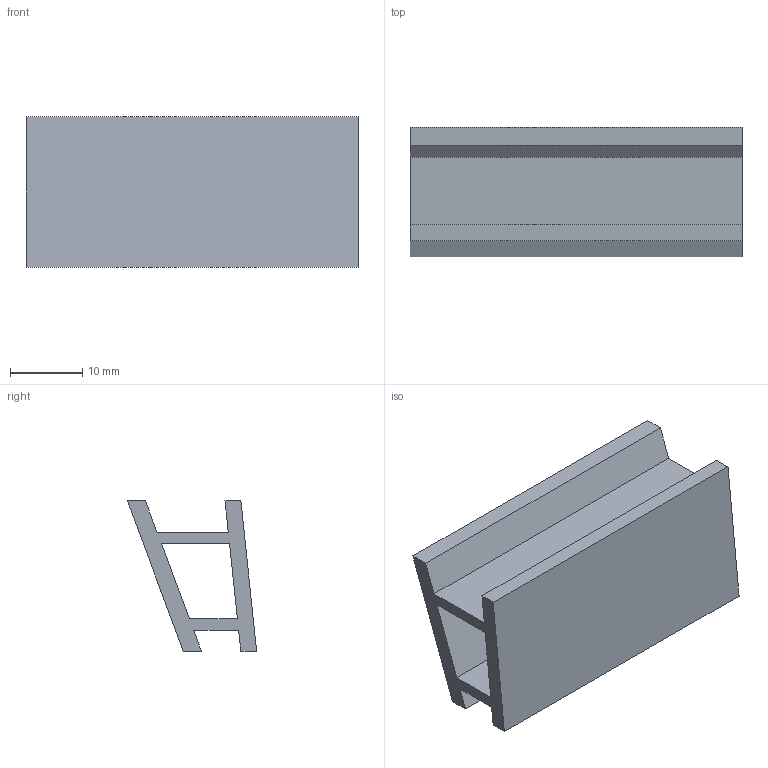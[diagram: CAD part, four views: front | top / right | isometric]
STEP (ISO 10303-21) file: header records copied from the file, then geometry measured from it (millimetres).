
FILE_DESCRIPTION(('Open CASCADE Model'),'2;1');
FILE_NAME('Open CASCADE Shape Model','2026-10-16T03:24:50',('Author'),( 'Open CASCADE'),'Open CASCADE STEP processor 7.9','Open CASCADE 7.9' ,'Unknown');
FILE_SCHEMA(('AUTOMOTIVE_DESIGN { 1 0 10303 214 1 1 1 1 }'));
Length unit declared in the file: millimetre
Products named in the file (1): Open CASCADE STEP translator 7.9 26
Bounding box: 46 x 17.92 x 20.83 mm (x, y, z)
Volume: 5687.8 mm3; surface area: 5826.9 mm2
Topology: 1 solids, 1 shells, 18 faces, 48 edges, 32 vertices
Faces by surface type: plane 18
Entity records: 1190 total; most frequent: CARTESIAN_POINT 195, DIRECTION 182, LINE 144, VECTOR 144, ORIENTED_EDGE 96, PCURVE 96, DEFINITIONAL_REPRESENTATION 96, EDGE_CURVE 48
